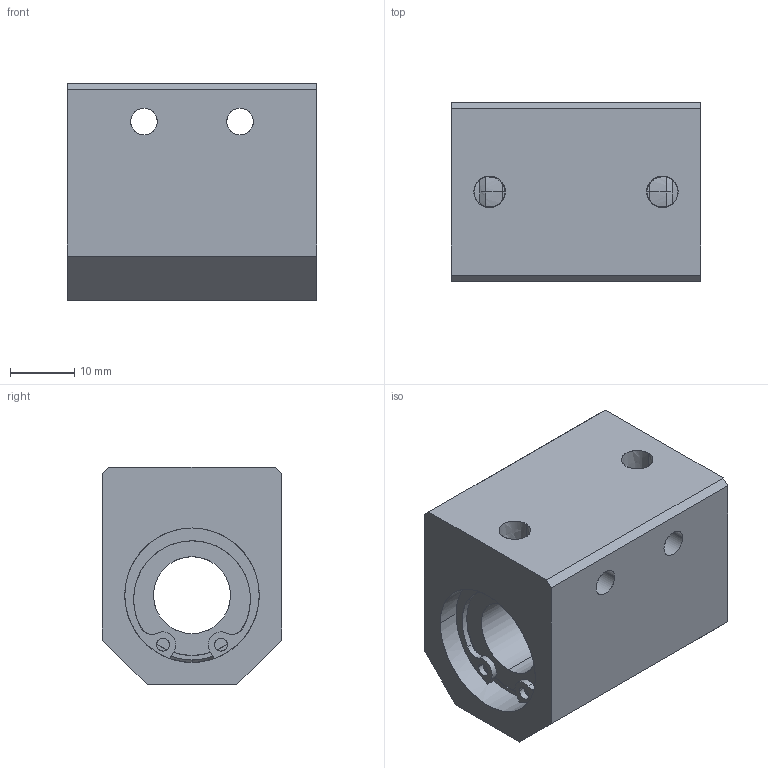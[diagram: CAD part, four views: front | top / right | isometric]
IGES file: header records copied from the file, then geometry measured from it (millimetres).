
Global section: file name: No Iges File Name specified; native system: AutoDesk Inventor R10; preprocessor: AutoDesk Inventor Iges Exporter R10; author: No Author specified; organization: No Organization specified; date: 20101213.093855; units: millimetre
Bounding box: 39 x 28 x 34 mm (x, y, z)
Surface area: 9786.2 mm2 (no closed solid volume)
Topology: 0 solids, 0 shells, 106 faces, 830 edges, 830 vertices
Faces by surface type: bspline 106
